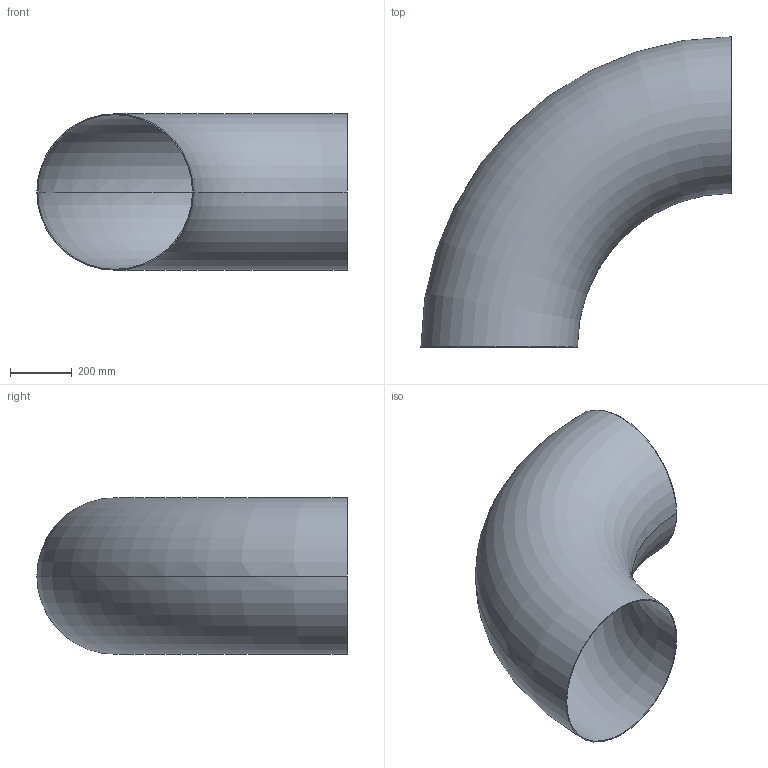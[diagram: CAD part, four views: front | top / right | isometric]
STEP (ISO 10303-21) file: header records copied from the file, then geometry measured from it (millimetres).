
FILE_DESCRIPTION (( 'STEP AP203' ), '1' );
FILE_NAME ('OT212-500-506x3_OSTP.step', '2020-12-16T03:09:55', ( '' ), ( '' ), 'SwSTEP 2.0', 'SolidWorks 2014', '' );
FILE_SCHEMA (( 'CONFIG_CONTROL_DESIGN' ));
Length unit declared in the file: millimetre
Products named in the file (1): OT212-500-506x3_OSTP
Bounding box: 1003 x 1003 x 506 mm (x, y, z)
Volume: 5584962.4 mm3; surface area: 3732789.6 mm2
Topology: 1 solids, 1 shells, 6 faces, 12 edges, 8 vertices
Faces by surface type: torus 4, plane 2
Entity records: 249 total; most frequent: DIRECTION 38, CARTESIAN_POINT 27, ORIENTED_EDGE 24, AXIS2_PLACEMENT_3D 19, EDGE_CURVE 12, CIRCLE 12, EDGE_LOOP 8, VERTEX_POINT 8
